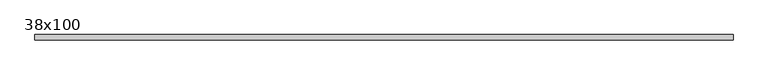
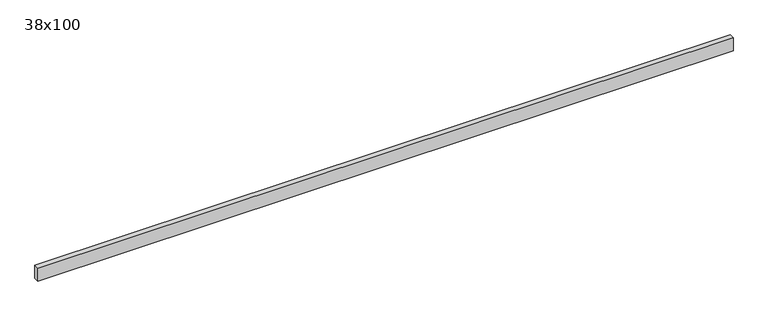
"""IFC4 building model written with IfcOpenShell, lengths in millimetres: beam geometry, Poutre - Bois de construction de dimensions courantes : 38x100."""

from ifc_helpers import new_model, si_unit, frame, origin, place, context, project, spatial, polyline, outline, extrude, source, transform, mapped, element, save


def beam_38x100_277f519d(model_context):
    return source(origin(), model_context, "Body", "SweptSolid", [
        extrude(outline(polyline([(2466.0, 19.05), (2466.0, -19.05), (-2626.0, -19.05), (-2626.0, 19.05), (2466.0, 19.05)])), frame((0.0, 0.0, -50.0), z_axis=(0.0, 0.0, 1.0), x_axis=(1.0, 0.0, 0.0)), (0.0, 0.0, 1.0), 100.0),
    ])


if __name__ == "__main__":
    model = new_model("IFC4")
    model_context = context("Model", 3, world=origin())
    ifc_project = project(units=[si_unit("LENGTHUNIT", "METRE", prefix="MILLI")], contexts=[model_context])
    site = spatial("IfcSite", under=ifc_project)
    building = spatial("IfcBuilding", under=site)
    placement = place(None, origin())
    beam_38x100_shape = beam_38x100_277f519d(model_context)
    element("IfcBeam", 1, ObjectType="Poutre - Bois de construction de dimensions courantes : 38x100", at=placement, inside=building, context=model_context, shape_type="MappedRepresentation", body=[
        mapped(beam_38x100_shape, transform((0.0, 0.0, 0.0), x_axis=(1.0, 0.0, 0.0), y_axis=(0.0, 1.0, 0.0), z_axis=(0.0, 0.0, 1.0))),
    ])
    save(model, "model.ifc")
